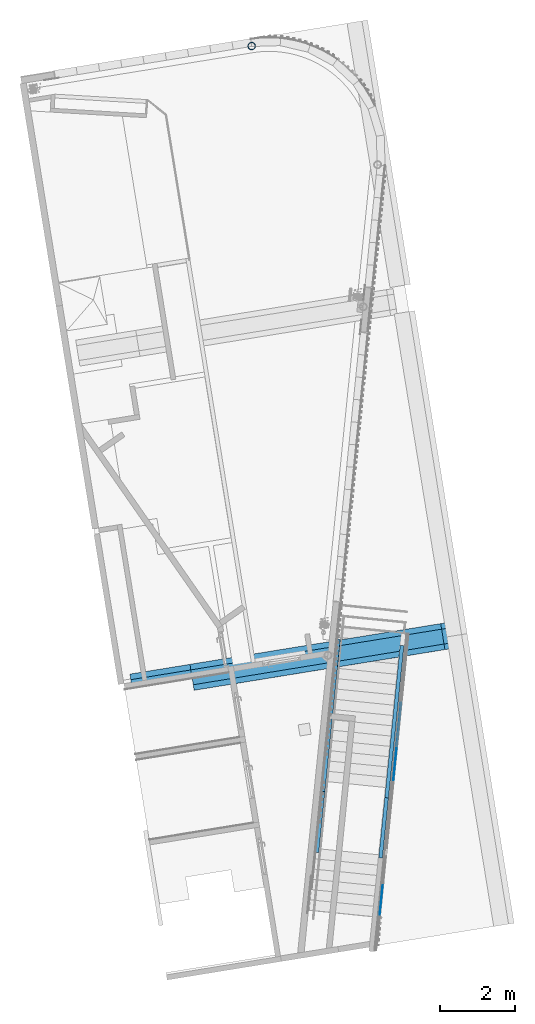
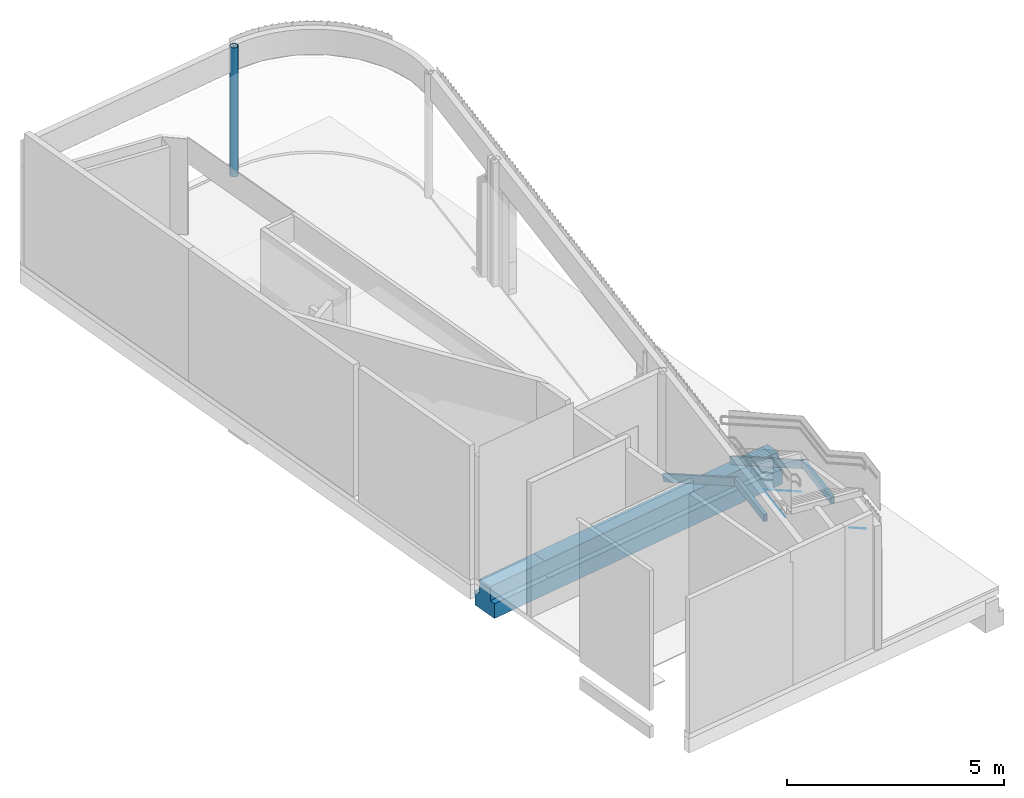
# One storey, part 2 of 23: 6 beams, 4 members, 1 column, 1 element without a shape of its own.
"""IFC2X3 building model written with IfcOpenShell, lengths in millimetres."""

from ifc_helpers import new_model, entity, si_unit, converted_unit, derived_unit, direction, frame, frame_2d, origin, origin_with_axes, origin_2d_with_axis, place, context, subcontext, project, spatial, polyline, rectangle, hollow_circle, outline, extrude, boolean, source, transform, mapped, material, type_object, element, aggregate, save


model = new_model("IFC2X3")

# Units and contexts
plan_context = context("Plan", 3, precision=1e-05, world=origin_with_axes())
model_context = context("Model", 3, precision=0.01, world=origin(), true_north=direction((6.12323399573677e-17, 1.0)))
body_context = subcontext(model_context, "Body", "Model", "MODEL_VIEW")
ifc_project = project(units=[converted_unit("PLANEANGLEUNIT", "DEGREE", entity("IfcPositiveLengthMeasure", 0.0174532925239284), si_unit("PLANEANGLEUNIT", "RADIAN"), dimensions=[0, 0, 0, 0, 0, 0, 0]), si_unit("AREAUNIT", "SQUARE_METRE"), si_unit("LENGTHUNIT", "METRE", prefix="MILLI"), si_unit("MASSUNIT", "GRAM", prefix="KILO"), si_unit("POWERUNIT", "WATT"), si_unit("PRESSUREUNIT", "PASCAL", prefix="KILO"), si_unit("FORCEUNIT", "NEWTON", prefix="KILO"), si_unit("ELECTRICVOLTAGEUNIT", "VOLT"), si_unit("ELECTRICCURRENTUNIT", "AMPERE"), si_unit("THERMODYNAMICTEMPERATUREUNIT", "DEGREE_CELSIUS"), si_unit("TIMEUNIT", "SECOND"), si_unit("VOLUMEUNIT", "CUBIC_METRE"), derived_unit("LINEARVELOCITYUNIT", [(si_unit("LENGTHUNIT", "METRE"), 1), (si_unit("TIMEUNIT", "SECOND"), -1)]), derived_unit("VOLUMETRICFLOWRATEUNIT", [(si_unit("VOLUMEUNIT", "CUBIC_METRE"), 1), (si_unit("TIMEUNIT", "SECOND"), -1)]), derived_unit("THERMALTRANSMITTANCEUNIT", [(si_unit("POWERUNIT", "WATT"), 1), (si_unit("THERMODYNAMICTEMPERATUREUNIT", "KELVIN"), -1), (si_unit("AREAUNIT", "SQUARE_METRE"), -1)]), derived_unit("SOUNDPRESSUREUNIT", [(si_unit("PRESSUREUNIT", "PASCAL"), 1)])], contexts=[model_context, plan_context])

# Site, building, storey
site_placement = place(None, frame((-0.00071070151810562, 0.00438415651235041, 0.0), z_axis=(0.0, 0.0, 1.0), x_axis=(-0.160236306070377, 0.987078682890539, 0.0)))
site = spatial("IfcSite", under=ifc_project, at=site_placement, Name="Default", CompositionType="ELEMENT")
building_placement = place(site_placement, origin_with_axes())
building = spatial("IfcBuilding", under=site, at=building_placement, Name="TOO", CompositionType="ELEMENT")
storey_placement = place(building_placement, frame((0.0, 0.0, 58999.9999999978), z_axis=(0.0, 0.0, 1.0), x_axis=(1.0, 0.0, 0.0)))
storey = spatial("IfcBuildingStorey", under=building, at=storey_placement, Name="Nivå F", CompositionType="ELEMENT", Elevation=58999.9999999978)

# Column
ifc_material_1 = material(Name="<Unnamed>")
column_type = type_object("IfcColumnType", Name="A222 - Sirkulær Stålsøyle:A222 - Sirkulær Stålsøyle 1 - Ø 200 mm", PredefinedType="COLUMN", material=ifc_material_1)
shared_shape_1 = source(origin(), body_context, "Body", "SweptSolid", [
    extrude(hollow_circle(Radius=99.9999999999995, WallThickness=9.99999999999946, at=frame_2d((-5.27018739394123e-15, 4.50048420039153e-13), x_axis=(1.0, 0.0))), frame((0.0, 0.0, 58779.9999999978)), (0.0, 0.0, 1.0), 3630.00000000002),
])
column_placement = place(storey_placement, frame((787197.619644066, -507101.295602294, -58999.9999999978), z_axis=(0.0, 0.0, 1.0), x_axis=(-1.0, 0.0, 0.0)))
element("IfcColumn", 1, at=column_placement, inside=storey, type_object=column_type, material=ifc_material_1, Name="A222 - Sirkulær Stålsøyle:A222 - Sirkulær Stålsøyle 1 - Ø 200 mm", ObjectType="A222 - Sirkulær Stålsøyle:A222 - Sirkulær Stålsøyle 1 - Ø 200 mm", context=body_context, shape_type="MappedRepresentation", body=[
    mapped(shared_shape_1, transform((0.0, 0.0, 0.0), scale=1.0)),
])

# Curtain wall, members
curtain_wall_type = type_object("IfcCurtainWallType", Name="Curtain Wall:Curtain Wall Standard (Bruk kun denne)", PredefinedType="NOTDEFINED")
curtain_wall_placement = place(storey_placement, frame((0.0, 0.0, -58999.9999999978), z_axis=(0.0, 0.0, 1.0), x_axis=(1.0, 0.0, 0.0)))
curtain_wall = element("IfcCurtainWall", 2, at=curtain_wall_placement, inside=storey, type_object=curtain_wall_type, Name="Curtain Wall:Curtain Wall Standard (Bruk kun denne)", ObjectType="Curtain Wall:Curtain Wall Standard (Bruk kun denne)")
ifc_material_2 = material(Name="A200 - Metall - Stål")
member_type_1 = type_object("IfcMemberType", Name="Rectangular Mullion:A248-M10 vinkelprofil sokkel", PredefinedType="MULLION", material=ifc_material_2)
shared_shape_2 = source(origin(), body_context, "Body", "SweptSolid", [
    extrude(outline(polyline([(-588.926126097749, -2.5), (597.841451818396, -2.5), (597.841451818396, 2.5), (-606.756777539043, 2.5), (-588.926126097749, -2.5)])), frame((2.5, -10.0, -616.373143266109), z_axis=(0.0, 1.0, 0.0), x_axis=(0.0, 0.0, -1.0)), (0.0, 0.0, 1.0), 10.0),
])
member_1_placement = place(curtain_wall_placement, frame((769309.926132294, -508230.833430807, 59149.9999999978), z_axis=(0.965925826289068, -0.258819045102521, 0.0), x_axis=(0.0, 0.0, 1.0)))
member_1 = element("IfcMember", 3, at=member_1_placement, type_object=member_type_1, material=ifc_material_2, Name="Rectangular Mullion:A248-M10 vinkelprofil sokkel", ObjectType="Rectangular Mullion:A248-M10 vinkelprofil sokkel", context=body_context, shape_type="MappedRepresentation", body=[
    mapped(shared_shape_2, transform((0.0, 0.0, 0.0), scale=1.0)),
])
member_type_2 = type_object("IfcMemberType", Name="Rectangular Mullion:A248-M10 vinkelprofil sokkel", PredefinedType="MULLION", material=ifc_material_2)
shared_shape_3 = source(origin(), body_context, "Body", "SweptSolid", [
    extrude(rectangle(XDim=5.0, YDim=10.0, at=origin_2d_with_axis()), frame((-2.5, -5.0, -1053.61920139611), z_axis=(0.0, 0.0, 1.0), x_axis=(-1.0, 0.0, 0.0)), (0.0, 0.0, 1.0), 1053.61920139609),
])
member_2_placement = place(curtain_wall_placement, frame((768137.084896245, -507916.571568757, 59889.0871448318), z_axis=(0.825092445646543, -0.221082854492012, -0.51994694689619), x_axis=(0.502230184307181, -0.134572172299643, 0.854198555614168)))
member_2 = element("IfcMember", 4, at=member_2_placement, type_object=member_type_2, material=ifc_material_2, Name="Rectangular Mullion:A248-M10 vinkelprofil sokkel", ObjectType="Rectangular Mullion:A248-M10 vinkelprofil sokkel", context=body_context, shape_type="MappedRepresentation", body=[
    mapped(shared_shape_3, transform((0.0, 0.0, 0.0), scale=1.0)),
])
member_type_3 = type_object("IfcMemberType", Name="Rectangular Mullion:A248-M10 vinkelprofil sokkel", PredefinedType="MULLION", material=ifc_material_2)
shared_shape_4 = source(origin(), body_context, "Body", "SweptSolid", [
    extrude(outline(polyline([(-719.999074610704, -2.5), (711.083748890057, -2.5), (711.083748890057, 2.5), (-702.16842316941, 2.5), (-719.999074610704, -2.5)])), frame((-2.5, -10.0, -710.382708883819), z_axis=(0.0, 1.0, 0.0), x_axis=(0.0, 0.0, -1.0)), (0.0, 0.0, 1.0), 10.0),
])
member_3_placement = place(curtain_wall_placement, frame((769309.926132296, -508230.833430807, 59149.9999999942), z_axis=(0.825092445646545, -0.221082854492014, -0.519946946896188), x_axis=(0.502230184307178, -0.134572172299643, 0.854198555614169)))
member_3 = element("IfcMember", 5, at=member_3_placement, type_object=member_type_3, material=ifc_material_2, Name="Rectangular Mullion:A248-M10 vinkelprofil sokkel", ObjectType="Rectangular Mullion:A248-M10 vinkelprofil sokkel", context=body_context, shape_type="MappedRepresentation", body=[
    mapped(shared_shape_4, transform((0.0, 0.0, 0.0), scale=1.0)),
])
member_type_4 = type_object("IfcMemberType", Name="Rectangular Mullion:A248-M10 vinkelprofil sokkel", PredefinedType="MULLION", material=ifc_material_2)
shared_shape_5 = source(origin(), body_context, "Body", "SweptSolid", [
    extrude(outline(polyline([(-531.308892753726, -2.5), (532.009932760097, -2.5), (530.607852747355, 2.5), (-531.308892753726, 2.5), (-531.308892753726, -2.5)])), frame((-2.5, -10.0, -531.308892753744), z_axis=(0.0, 1.0, 0.0), x_axis=(0.0, 0.0, -1.0)), (0.0, 0.0, 1.0), 10.0),
])
member_4_placement = place(curtain_wall_placement, frame((764659.751921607, -506984.823006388, 61152.1306230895), z_axis=(0.825092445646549, -0.221082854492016, -0.51994694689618), x_axis=(0.502230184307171, -0.134572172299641, 0.854198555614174)))
member_4 = element("IfcMember", 6, at=member_4_placement, type_object=member_type_4, material=ifc_material_2, Name="Rectangular Mullion:A248-M10 vinkelprofil sokkel", ObjectType="Rectangular Mullion:A248-M10 vinkelprofil sokkel", context=body_context, shape_type="MappedRepresentation", body=[
    mapped(shared_shape_5, transform((0.0, 0.0, 0.0), scale=1.0)),
])
aggregate(curtain_wall, [member_1, member_2, member_3, member_4])

# Beams
ifc_material_3 = material(Name="Concrete - Cast-in-Place Concrete")
beam_type_1 = type_object("IfcBeamType", Name="A223 - DLB Prefab. Betongbjelke:A223 - DLB Prefab. Betongbjelke - 815 x 700 x 400 mm", PredefinedType="BEAM")
beam_1_placement = place(storey_placement, frame((770878.459912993, -509602.480498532, 0.0), z_axis=(0.0, 0.0, 1.0), x_axis=(0.0, 1.0, 0.0)))
element("IfcBeam", 7, at=beam_1_placement, inside=storey, type_object=beam_type_1, material=ifc_material_3, Name="A223 - DLB Prefab. Betongbjelke:A223 - DLB Prefab. Betongbjelke - 815 x 700 x 400 mm", ObjectType="A223 - DLB Prefab. Betongbjelke:A223 - DLB Prefab. Betongbjelke - 815 x 700 x 400 mm", context=body_context, shape_type="SweptSolid", body=[
    extrude(outline(polyline([(-6.25000000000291, -350.0), (413.749999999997, -350.0), (413.749999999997, 350.0), (-6.25000000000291, 350.0), (-6.25000000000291, 200.0), (-401.25, 200.0), (-401.25, -200.0), (-6.25000000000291, -200.0), (-6.25000000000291, -350.0)])), frame((0.0, 0.0, -621.250000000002), z_axis=(1.0, 0.0, 0.0), x_axis=(0.0, 0.0, -1.0)), (0.0, 0.0, 1.0), 6757.2940762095),
])
ifc_material_4 = material(Name="Betong Plasstøpt - B1")
beam_type_2 = type_object("IfcBeamType", Name="223_Bjelker-T3-Prefab DLB:DLB400*815-700*420", PredefinedType="BEAM")
beam_2_placement = place(storey_placement, frame((770877.619644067, -509577.480498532, -225.0), z_axis=(0.0, 0.0, 1.0), x_axis=(0.0, 1.0, 0.0)))
element("IfcBeam", 8, at=beam_2_placement, inside=storey, type_object=beam_type_2, material=ifc_material_4, Name="223_Bjelker-T3-Prefab DLB:DLB400*815-700*420", ObjectType="223_Bjelker-T3-Prefab DLB:DLB400*815-700*420", context=body_context, shape_type="SweptSolid", body=[
    extrude(outline(polyline([(-6.25000000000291, -350.0), (413.749999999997, -350.0), (413.749999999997, 350.0), (-6.25000000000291, 350.0), (-6.25000000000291, 200.0), (-401.25, 200.0), (-401.25, -200.0), (-6.25000000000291, -200.0), (-6.25000000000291, -350.0)])), frame((-199.99999939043, 0.0, -401.25), z_axis=(1.0, 0.0, 0.0), x_axis=(0.0, 0.0, -1.0)), (0.0, 0.0, 1.0), 8549.99999939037),
])
ifc_material_5 = material(Name="Metal - Steel 50-355")
beam_type_3 = type_object("IfcBeamType", Name="Rectangular Hollow Sections_Parameter:RHS100x200x10", PredefinedType="BEAM")
beam_3_placement = place(storey_placement, frame((770704.718297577, -508463.992273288, -3.40917741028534), z_axis=(0.502296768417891, -0.134590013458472, 0.85415659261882), x_axis=(-0.825051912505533, 0.221071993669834, 0.520015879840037)))
element("IfcBeam", 9, at=beam_3_placement, inside=storey, type_object=beam_type_3, material=ifc_material_5, Name="Rectangular Hollow Sections_Parameter:RHS100x200x10", ObjectType="Rectangular Hollow Sections_Parameter:RHS100x200x10", context=body_context, shape_type="SweptSolid", body=[
    boolean("DIFFERENCE", extrude(rectangle(XDim=200.000000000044, YDim=99.9999999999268, at=frame_2d((-9.76996261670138e-11, -1.79376513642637e-11), x_axis=(1.0, 0.0))), frame((-12.4254981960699, 0.0, 100.0), z_axis=(1.0, 0.0, 0.0), x_axis=(0.0, 0.0, -1.0)), (0.0, 0.0, 1.0), 4763.41378856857), extrude(rectangle(XDim=180.000000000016, YDim=80.0000000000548, at=frame_2d((-3.34701155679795e-11, 8.36308799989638e-12), x_axis=(0.0, 1.0))), frame((4750.98829037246, 0.0, 100.0), z_axis=(-1.0, 0.0, 0.0), x_axis=(0.0, 1.0, 0.0)), (0.0, 0.0, 1.0), 4763.41378856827)),
])
beam_4_placement = place(storey_placement, frame((766726.894460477, -507398.137588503, 2442.71234947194), z_axis=(0.0, 0.0, 1.0), x_axis=(-0.965925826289, 0.258819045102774, 0.0)))
element("IfcBeam", 10, at=beam_4_placement, inside=storey, type_object=beam_type_3, material=ifc_material_5, Name="Rectangular Hollow Sections_Parameter:RHS100x200x10", ObjectType="Rectangular Hollow Sections_Parameter:RHS100x200x10", context=body_context, shape_type="SweptSolid", body=[
    boolean("DIFFERENCE", extrude(rectangle(XDim=199.999999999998, YDim=100.000000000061, at=frame_2d((4.33431068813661e-12, -3.34665628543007e-11), x_axis=(1.0, 0.0))), frame((-165.171202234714, 0.0, 100.0), z_axis=(1.0, 0.0, 0.0), x_axis=(0.0, 0.0, -1.0)), (0.0, 0.0, 1.0), 1605.5273185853), extrude(rectangle(XDim=180.000000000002, YDim=79.999999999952, at=frame_2d((0.0, 4.33431068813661e-12), x_axis=(0.0, 1.0))), frame((1440.35611635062, 0.0, 100.0), z_axis=(-1.0, 0.0, 0.0), x_axis=(0.0, 1.0, 0.0)), (0.0, 0.0, 1.0), 1605.52731858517)),
])
beam_5_placement = place(storey_placement, frame((771144.710674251, -506821.9183686, -3.40917741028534), z_axis=(0.502296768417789, -0.134590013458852, 0.85415659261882), x_axis=(-0.825051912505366, 0.221071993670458, 0.520015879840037)))
element("IfcBeam", 11, at=beam_5_placement, inside=storey, type_object=beam_type_3, material=ifc_material_5, Name="Rectangular Hollow Sections_Parameter:RHS100x200x10", ObjectType="Rectangular Hollow Sections_Parameter:RHS100x200x10", context=body_context, shape_type="SweptSolid", body=[
    boolean("DIFFERENCE", extrude(rectangle(XDim=200.000000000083, YDim=99.9999999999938, at=frame_2d((-2.04281036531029e-11, 6.69437838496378e-11), x_axis=(1.0, 0.0))), frame((-12.42549819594, 0.0, 100.0), z_axis=(1.0, 0.0, 0.0), x_axis=(0.0, 0.0, -1.0)), (0.0, 0.0, 1.0), 4763.41378856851), extrude(rectangle(XDim=180.000000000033, YDim=79.9999999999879, at=frame_2d((0.0, 3.70192765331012e-12), x_axis=(0.0, 1.0))), frame((-12.4254981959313, 0.0, 100.0), z_axis=(1.0, 0.0, 0.0), x_axis=(0.0, -1.0, 0.0)), (0.0, 0.0, 1.0), 4763.41378856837)),
])
beam_6_placement = place(storey_placement, frame((767166.886837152, -505756.063683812, 2442.71234947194), z_axis=(0.0, 0.0, 1.0), x_axis=(-0.96592582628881, 0.258819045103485, 0.0)))
element("IfcBeam", 12, at=beam_6_placement, inside=storey, type_object=beam_type_3, material=ifc_material_5, Name="Rectangular Hollow Sections_Parameter:RHS100x200x10", ObjectType="Rectangular Hollow Sections_Parameter:RHS100x200x10", context=body_context, shape_type="SweptSolid", body=[
    boolean("DIFFERENCE", extrude(rectangle(XDim=199.999999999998, YDim=99.9999999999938, at=frame_2d((4.33431068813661e-12, -6.6940231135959e-11), x_axis=(1.0, 0.0))), frame((-165.148230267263, 0.0, 100.0), z_axis=(1.0, 0.0, 0.0), x_axis=(0.0, 0.0, -1.0)), (0.0, 0.0, 1.0), 1633.52731858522), extrude(rectangle(XDim=180.000000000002, YDim=80.0000000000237, at=frame_2d((0.0, 4.33431068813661e-12), x_axis=(0.0, 1.0))), frame((-165.148230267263, 0.0, 100.0), z_axis=(1.0, 0.0, 0.0), x_axis=(0.0, -1.0, 0.0)), (0.0, 0.0, 1.0), 1633.52731858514)),
])

save(model, "model.ifc")
